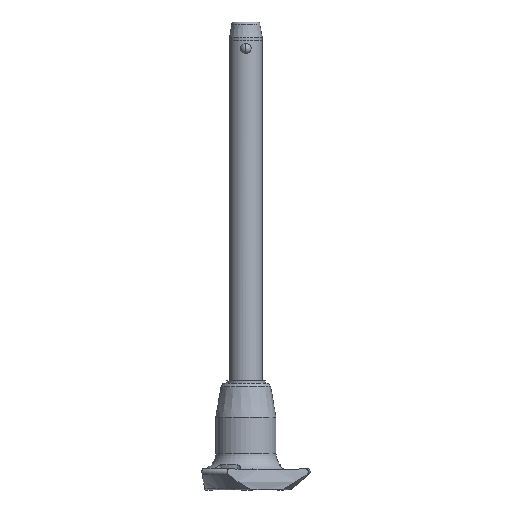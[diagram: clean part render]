
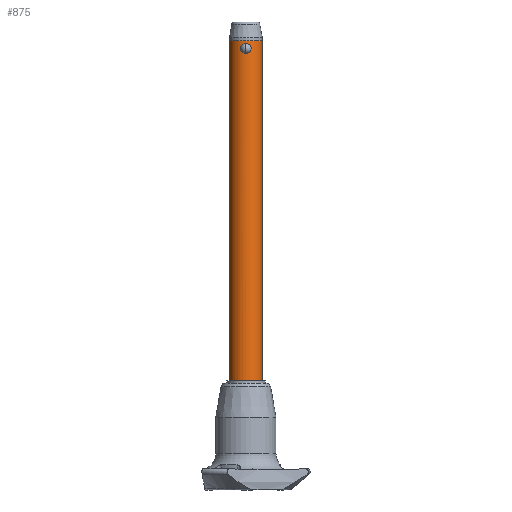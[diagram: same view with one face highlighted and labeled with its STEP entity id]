
A CAD part, front view. The second image highlights one B-rep face of the part: STEP entity #875.
In plain terms, the highlighted cylindrical face has radius 5 mm (diameter 10 mm), a partial arc.
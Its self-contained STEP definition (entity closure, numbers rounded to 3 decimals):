
#80 = CARTESIAN_POINT ( 'NONE',  ( 0.412, -4.987, 0.037 ) ) ;
#94 = CARTESIAN_POINT ( 'NONE',  ( 1.56, -4.751, 1.103 ) ) ;
#104 = CARTESIAN_POINT ( 'NONE',  ( 1.047, -4.89, 0.356 ) ) ;
#121 = CARTESIAN_POINT ( 'NONE',  ( 1.196, -4.855, 0.493 ) ) ;
#136 = CARTESIAN_POINT ( 'NONE',  ( -0.7, -4.952, 2.888 ) ) ;
#143 = EDGE_CURVE ( 'NONE', #854, #403, #896, .T. ) ;
#203 = FACE_OUTER_BOUND ( 'NONE', #2748, .T. ) ;
#205 = ORIENTED_EDGE ( 'NONE', *, *, #143, .F. ) ;
#220 = CARTESIAN_POINT ( 'NONE',  ( 0., -5., 0. ) ) ;
#247 = CARTESIAN_POINT ( 'NONE',  ( -5., 0., -100. ) ) ;
#259 = VERTEX_POINT ( 'NONE', #2450 ) ;
#261 = FACE_BOUND ( 'NONE', #1317, .T. ) ;
#296 = CARTESIAN_POINT ( 'NONE',  ( 1.265, -4.838, 0.57 ) ) ;
#314 = CARTESIAN_POINT ( 'NONE',  ( 1.048, -4.889, 2.676 ) ) ;
#325 = CARTESIAN_POINT ( 'NONE',  ( 1.604, -4.736, 1.619 ) ) ;
#354 = CARTESIAN_POINT ( 'NONE',  ( 0.208, -5., 3.033 ) ) ;
#378 = ORIENTED_EDGE ( 'NONE', *, *, #1384, .F. ) ;
#382 = CARTESIAN_POINT ( 'NONE',  ( -0.699, -4.952, 0.145 ) ) ;
#403 = VERTEX_POINT ( 'NONE', #2235 ) ;
#416 = CARTESIAN_POINT ( 'NONE',  ( 0., 0., -100. ) ) ;
#428 = CARTESIAN_POINT ( 'NONE',  ( -1.394, -4.802, 0.731 ) ) ;
#517 = CARTESIAN_POINT ( 'NONE',  ( 0., 0., -100. ) ) ;
#537 = CARTESIAN_POINT ( 'NONE',  ( 0.792, -4.938, 0.19 ) ) ;
#560 = CARTESIAN_POINT ( 'NONE',  ( -1.197, -4.855, 2.539 ) ) ;
#578 = CARTESIAN_POINT ( 'NONE',  ( -1.047, -4.89, 0.357 ) ) ;
#623 = CARTESIAN_POINT ( 'NONE',  ( -1.594, -4.739, 1.312 ) ) ;
#639 = CARTESIAN_POINT ( 'NONE',  ( -0.205, -5., 0. ) ) ;
#766 = CARTESIAN_POINT ( 'NONE',  ( -0.791, -4.938, 2.844 ) ) ;
#774 = EDGE_CURVE ( 'NONE', #2328, #403, #1948, .T. ) ;
#782 = VERTEX_POINT ( 'NONE', #220 ) ;
#793 = DIRECTION ( 'NONE',  ( 0., 0., 1. ) ) ;
#854 = VERTEX_POINT ( 'NONE', #2617 ) ;
#872 = DIRECTION ( 'NONE',  ( 0., 0., 1. ) ) ;
#875 = ADVANCED_FACE ( 'NONE', ( #203, #261 ), #2472, .T. ) ;
#885 = DIRECTION ( 'NONE',  ( 0., 0., 1. ) ) ;
#896 = CIRCLE ( 'NONE', #1850, 5. ) ;
#920 = VERTEX_POINT ( 'NONE', #247 ) ;
#952 = CARTESIAN_POINT ( 'NONE',  ( 1.594, -4.739, 1.721 ) ) ;
#976 = CARTESIAN_POINT ( 'NONE',  ( 0.205, -5., 0. ) ) ;
#992 = CARTESIAN_POINT ( 'NONE',  ( 1.384, -4.805, 0.735 ) ) ;
#1006 = CARTESIAN_POINT ( 'NONE',  ( -1.435, -4.79, 2.209 ) ) ;
#1019 = CARTESIAN_POINT ( 'NONE',  ( -0.792, -4.938, 0.19 ) ) ;
#1052 = CARTESIAN_POINT ( 'NONE',  ( -1.551, -4.753, 1.11 ) ) ;
#1065 = CARTESIAN_POINT ( 'NONE',  ( 0., -5., 0. ) ) ;
#1179 = CARTESIAN_POINT ( 'NONE',  ( 0.792, -4.938, 2.844 ) ) ;
#1190 = CARTESIAN_POINT ( 'NONE',  ( 1.434, -4.79, 0.822 ) ) ;
#1247 = ORIENTED_EDGE ( 'NONE', *, *, #2380, .F. ) ;
#1269 = ORIENTED_EDGE ( 'NONE', *, *, #774, .T. ) ;
#1317 = EDGE_LOOP ( 'NONE', ( #1322, #378 ) ) ;
#1322 = ORIENTED_EDGE ( 'NONE', *, *, #1388, .F. ) ;
#1384 = EDGE_CURVE ( 'NONE', #782, #259, #2332, .T. ) ;
#1385 = CARTESIAN_POINT ( 'NONE',  ( 1.519, -4.764, 2.021 ) ) ;
#1388 = EDGE_CURVE ( 'NONE', #259, #782, #1403, .T. ) ;
#1394 = VECTOR ( 'NONE', #872, 1000. ) ;
#1396 = EDGE_CURVE ( 'NONE', #2328, #920, #1911, .T. ) ;
#1403 = B_SPLINE_CURVE_WITH_KNOTS ( 'NONE', 3,
 ( #2519, #2494, #2719, #136, #766, #1637, #2506, #560, #1432, #2308, #1006, #1882, #2597, #2566, #623, #1052, #2791, #428, #2369, #578, #1665, #1019, #382, #1958, #639, #1065 ),
 .UNSPECIFIED., .F., .F.,
 ( 4, 2, 2, 2, 2, 2, 2, 2, 2, 2, 2, 2, 4 ),
 ( 0., 0.001, 0.001, 0.001, 0.002, 0.002, 0.002, 0.003, 0.003, 0.004, 0.004, 0.004, 0.005 ),
 .UNSPECIFIED. ) ;
#1419 = ORIENTED_EDGE ( 'NONE', *, *, #1396, .F. ) ;
#1432 = CARTESIAN_POINT ( 'NONE',  ( -1.264, -4.838, 2.464 ) ) ;
#1446 = AXIS2_PLACEMENT_3D ( 'NONE', #416, #1451, #2351 ) ;
#1451 = DIRECTION ( 'NONE',  ( 0., 0., -1. ) ) ;
#1540 = AXIS2_PLACEMENT_3D ( 'NONE', #517, #1821, #2460 ) ;
#1637 = CARTESIAN_POINT ( 'NONE',  ( -0.965, -4.907, 2.738 ) ) ;
#1650 = CARTESIAN_POINT ( 'NONE',  ( 0., -5., 3.033 ) ) ;
#1664 = DIRECTION ( 'NONE',  ( 1., 0., 0. ) ) ;
#1665 = CARTESIAN_POINT ( 'NONE',  ( -0.966, -4.907, 0.296 ) ) ;
#1821 = DIRECTION ( 'NONE',  ( 0., 0., 1. ) ) ;
#1838 = CARTESIAN_POINT ( 'NONE',  ( 1.604, -4.736, 1.308 ) ) ;
#1849 = CARTESIAN_POINT ( 'NONE',  ( 1.272, -4.838, 2.47 ) ) ;
#1850 = AXIS2_PLACEMENT_3D ( 'NONE', #2745, #793, #1664 ) ;
#1868 = CARTESIAN_POINT ( 'NONE',  ( 0.7, -4.952, 2.888 ) ) ;
#1882 = CARTESIAN_POINT ( 'NONE',  ( -1.56, -4.751, 1.931 ) ) ;
#1911 = CIRCLE ( 'NONE', #1446, 5. ) ;
#1948 = LINE ( 'NONE', #2402, #1394 ) ;
#1958 = CARTESIAN_POINT ( 'NONE',  ( -0.412, -4.987, 0.037 ) ) ;
#2042 = CARTESIAN_POINT ( 'NONE',  ( 0.699, -4.952, 0.144 ) ) ;
#2066 = CARTESIAN_POINT ( 'NONE',  ( 1.395, -4.802, 2.301 ) ) ;
#2099 = CARTESIAN_POINT ( 'NONE',  ( 0.966, -4.907, 2.738 ) ) ;
#2235 = CARTESIAN_POINT ( 'NONE',  ( 5., 0., 3.84 ) ) ;
#2267 = CARTESIAN_POINT ( 'NONE',  ( 0.966, -4.907, 0.296 ) ) ;
#2308 = CARTESIAN_POINT ( 'NONE',  ( -1.383, -4.805, 2.299 ) ) ;
#2318 = LINE ( 'NONE', #2773, #2812 ) ;
#2328 = VERTEX_POINT ( 'NONE', #2526 ) ;
#2332 = B_SPLINE_CURVE_WITH_KNOTS ( 'NONE', 3,
 ( #2707, #976, #80, #2042, #537, #2267, #104, #121, #296, #992, #1190, #94, #1838, #325, #952, #2746, #1385, #2066, #1849, #314, #2099, #1179, #1868, #2732, #354, #1650 ),
 .UNSPECIFIED., .F., .F.,
 ( 4, 2, 2, 2, 2, 2, 2, 2, 2, 2, 2, 2, 4 ),
 ( 0.005, 0.006, 0.006, 0.006, 0.006, 0.007, 0.007, 0.008, 0.008, 0.009, 0.009, 0.009, 0.01 ),
 .UNSPECIFIED. ) ;
#2351 = DIRECTION ( 'NONE',  ( 1., 0., 0. ) ) ;
#2369 = CARTESIAN_POINT ( 'NONE',  ( -1.272, -4.838, 0.564 ) ) ;
#2380 = EDGE_CURVE ( 'NONE', #920, #854, #2318, .T. ) ;
#2402 = CARTESIAN_POINT ( 'NONE',  ( 5., 0., -100. ) ) ;
#2450 = CARTESIAN_POINT ( 'NONE',  ( 0., -5., 3.033 ) ) ;
#2460 = DIRECTION ( 'NONE',  ( 1., 0., 0. ) ) ;
#2472 = CYLINDRICAL_SURFACE ( 'NONE', #1540, 5. ) ;
#2494 = CARTESIAN_POINT ( 'NONE',  ( -0.208, -5., 3.033 ) ) ;
#2506 = CARTESIAN_POINT ( 'NONE',  ( -1.047, -4.89, 2.676 ) ) ;
#2519 = CARTESIAN_POINT ( 'NONE',  ( 0., -5., 3.033 ) ) ;
#2526 = CARTESIAN_POINT ( 'NONE',  ( 5., 0., -100. ) ) ;
#2566 = CARTESIAN_POINT ( 'NONE',  ( -1.604, -4.736, 1.416 ) ) ;
#2597 = CARTESIAN_POINT ( 'NONE',  ( -1.604, -4.736, 1.724 ) ) ;
#2617 = CARTESIAN_POINT ( 'NONE',  ( -5., 0., 3.84 ) ) ;
#2707 = CARTESIAN_POINT ( 'NONE',  ( 0., -5., 0. ) ) ;
#2719 = CARTESIAN_POINT ( 'NONE',  ( -0.412, -4.987, 2.997 ) ) ;
#2732 = CARTESIAN_POINT ( 'NONE',  ( 0.412, -4.987, 2.996 ) ) ;
#2745 = CARTESIAN_POINT ( 'NONE',  ( 0., 0., 3.84 ) ) ;
#2746 = CARTESIAN_POINT ( 'NONE',  ( 1.551, -4.753, 1.922 ) ) ;
#2748 = EDGE_LOOP ( 'NONE', ( #1247, #1419, #1269, #205 ) ) ;
#2773 = CARTESIAN_POINT ( 'NONE',  ( -5., 0., -100. ) ) ;
#2791 = CARTESIAN_POINT ( 'NONE',  ( -1.519, -4.764, 1.013 ) ) ;
#2812 = VECTOR ( 'NONE', #885, 1000. ) ;
